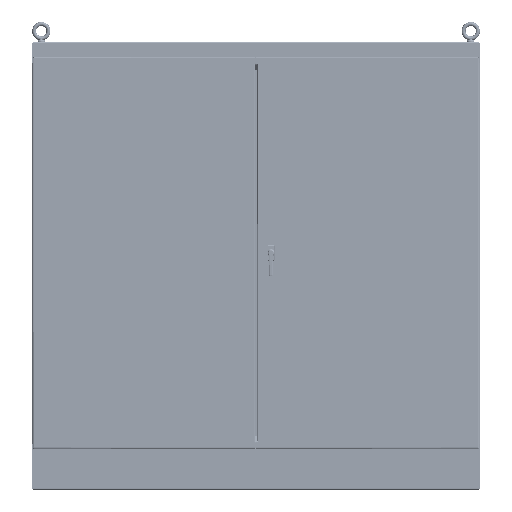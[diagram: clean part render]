
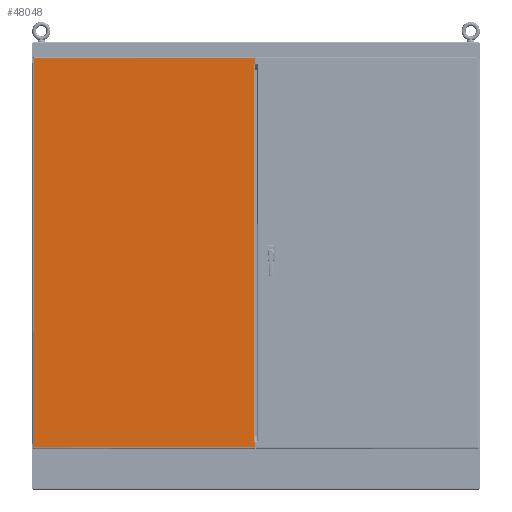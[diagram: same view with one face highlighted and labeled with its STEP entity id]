
A CAD part, top view. The second image highlights one B-rep face of the part: STEP entity #48048.
In plain terms, the highlighted planar face has unit normal (0, 0, 1).
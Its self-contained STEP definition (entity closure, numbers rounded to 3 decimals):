
#18391 = EDGE_LOOP ( 'NONE', ( #109732, #109578, #109731, #109655, #109653, #109654, #109651, #109306 ) ) ;
#19482 = VERTEX_POINT ( 'NONE', #74835 ) ;
#19486 = VERTEX_POINT ( 'NONE', #74837 ) ;
#19491 = VERTEX_POINT ( 'NONE', #74840 ) ;
#19495 = VERTEX_POINT ( 'NONE', #74842 ) ;
#19497 = VERTEX_POINT ( 'NONE', #74843 ) ;
#19498 = VERTEX_POINT ( 'NONE', #74844 ) ;
#19500 = VERTEX_POINT ( 'NONE', #74845 ) ;
#19502 = VERTEX_POINT ( 'NONE', #74846 ) ;
#42829 = CARTESIAN_POINT ( 'NONE',  ( -17.873, -31.312, 0.097 ) ) ;
#42841 = CARTESIAN_POINT ( 'NONE',  ( 17.872, -30.392, 0.097 ) ) ;
#42844 = DIRECTION ( 'NONE',  ( 1., 0., 0. ) ) ;
#42848 = DIRECTION ( 'NONE',  ( 1., 0., 0. ) ) ;
#42863 = CARTESIAN_POINT ( 'NONE',  ( 17.695, -30.392, 0.097 ) ) ;
#42894 = DIRECTION ( 'NONE',  ( 0., 1., 0. ) ) ;
#42909 = CARTESIAN_POINT ( 'NONE',  ( 17.872, 30.392, 0.097 ) ) ;
#42911 = DIRECTION ( 'NONE',  ( -1., 0., 0. ) ) ;
#42913 = CARTESIAN_POINT ( 'NONE',  ( -17.696, 31.489, 0.097 ) ) ;
#42916 = DIRECTION ( 'NONE',  ( 0., -1., 0. ) ) ;
#42919 = CARTESIAN_POINT ( 'NONE',  ( 17.872, -31.489, 0.097 ) ) ;
#42920 = DIRECTION ( 'NONE',  ( 0., 1., 0. ) ) ;
#42923 = CARTESIAN_POINT ( 'NONE',  ( 332.76, 31.312, 0.097 ) ) ;
#42925 = DIRECTION ( 'NONE',  ( -1., 0., 0. ) ) ;
#42927 = CARTESIAN_POINT ( 'NONE',  ( 17.872, -31.489, 0.097 ) ) ;
#42929 = DIRECTION ( 'NONE',  ( 0., 1., 0. ) ) ;
#43812 = LINE ( 'NONE', #42829, #43840 ) ;
#43830 = LINE ( 'NONE', #42841, #43844 ) ;
#43840 = VECTOR ( 'NONE', #42844, 39.37 ) ;
#43844 = VECTOR ( 'NONE', #42848, 39.37 ) ;
#43857 = LINE ( 'NONE', #42909, #43859 ) ;
#43859 = VECTOR ( 'NONE', #42911, 39.37 ) ;
#43862 = LINE ( 'NONE', #42863, #43866 ) ;
#43866 = VECTOR ( 'NONE', #42894, 39.37 ) ;
#43883 = LINE ( 'NONE', #42913, #43885 ) ;
#43885 = VECTOR ( 'NONE', #42916, 39.37 ) ;
#43887 = LINE ( 'NONE', #42919, #43889 ) ;
#43889 = VECTOR ( 'NONE', #42920, 39.37 ) ;
#43891 = LINE ( 'NONE', #42923, #43894 ) ;
#43894 = VECTOR ( 'NONE', #42925, 39.37 ) ;
#43896 = LINE ( 'NONE', #42927, #43898 ) ;
#43898 = VECTOR ( 'NONE', #42929, 39.37 ) ;
#48048 = ADVANCED_FACE ( 'NONE', ( #105624 ), #104931, .F. ) ;
#74835 = CARTESIAN_POINT ( 'NONE',  ( 17.695, -30.392, 0.097 ) ) ;
#74837 = CARTESIAN_POINT ( 'NONE',  ( 17.872, -30.392, 0.097 ) ) ;
#74840 = CARTESIAN_POINT ( 'NONE',  ( 17.695, 30.392, 0.097 ) ) ;
#74842 = CARTESIAN_POINT ( 'NONE',  ( 17.872, 30.392, 0.097 ) ) ;
#74843 = CARTESIAN_POINT ( 'NONE',  ( 17.872, 31.312, 0.097 ) ) ;
#74844 = CARTESIAN_POINT ( 'NONE',  ( -17.696, 31.312, 0.097 ) ) ;
#74845 = CARTESIAN_POINT ( 'NONE',  ( -17.696, -31.312, 0.097 ) ) ;
#74846 = CARTESIAN_POINT ( 'NONE',  ( 17.872, -31.312, 0.097 ) ) ;
#87435 = EDGE_CURVE ( 'NONE', #19500, #19502, #43812, .T. ) ;
#87436 = EDGE_CURVE ( 'NONE', #19482, #19486, #43830, .T. ) ;
#87443 = EDGE_CURVE ( 'NONE', #19482, #19491, #43862, .T. ) ;
#87446 = EDGE_CURVE ( 'NONE', #19495, #19491, #43857, .T. ) ;
#87447 = EDGE_CURVE ( 'NONE', #19498, #19500, #43883, .T. ) ;
#87448 = EDGE_CURVE ( 'NONE', #19495, #19497, #43887, .T. ) ;
#87449 = EDGE_CURVE ( 'NONE', #19497, #19498, #43891, .T. ) ;
#87450 = EDGE_CURVE ( 'NONE', #19502, #19486, #43896, .T. ) ;
#104921 = CARTESIAN_POINT ( 'NONE',  ( -17.873, -31.489, 0.097 ) ) ;
#104931 = PLANE ( 'NONE',  #105412 ) ;
#104941 = DIRECTION ( 'NONE',  ( 0., 0., -1. ) ) ;
#104943 = DIRECTION ( 'NONE',  ( -1., 0., 0. ) ) ;
#105412 = AXIS2_PLACEMENT_3D ( 'NONE', #104921, #104941, #104943 ) ;
#105624 = FACE_OUTER_BOUND ( 'NONE', #18391, .T. ) ;
#109306 = ORIENTED_EDGE ( 'NONE', *, *, #87450, .T. ) ;
#109578 = ORIENTED_EDGE ( 'NONE', *, *, #87443, .T. ) ;
#109651 = ORIENTED_EDGE ( 'NONE', *, *, #87435, .T. ) ;
#109653 = ORIENTED_EDGE ( 'NONE', *, *, #87449, .T. ) ;
#109654 = ORIENTED_EDGE ( 'NONE', *, *, #87447, .T. ) ;
#109655 = ORIENTED_EDGE ( 'NONE', *, *, #87448, .T. ) ;
#109731 = ORIENTED_EDGE ( 'NONE', *, *, #87446, .F. ) ;
#109732 = ORIENTED_EDGE ( 'NONE', *, *, #87436, .F. ) ;
